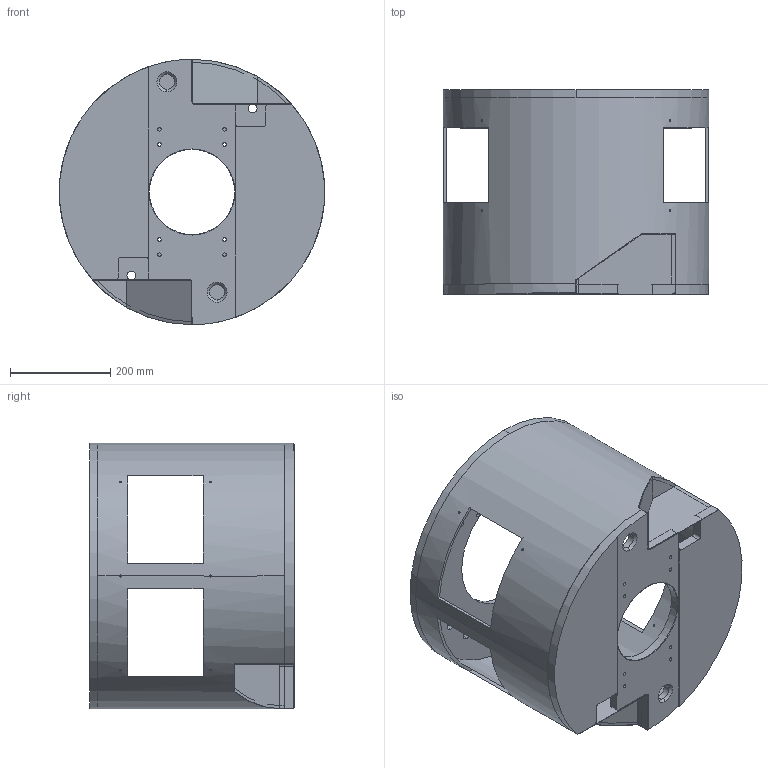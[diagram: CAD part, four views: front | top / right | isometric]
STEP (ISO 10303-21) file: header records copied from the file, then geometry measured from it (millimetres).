
FILE_DESCRIPTION (( 'STEP AP203' ), '1' );
FILE_NAME ('YWSD-2026-03-01-01-01 打磨头回转筒组焊件.STEP', '2026-07-24T07:30:15', ( 'Windows 用户' ), ( '' ), 'SwSTEP 2.0', 'SolidWorks 2024', '' );
FILE_SCHEMA (( 'CONFIG_CONTROL_DESIGN' ));
Length unit declared in the file: millimetre
Products named in the file (5): YWSD-2026-03-01-01-01=003 旋转中间管; YWSD-2026-03-01-01-01=001 旋转上板; YWSD-2026-03-01-01-01=004 盖板; YWSD-2026-03-01-01-01=002 旋转下板; YWSD-2026-03-01-01-01 打磨头回转筒组焊件
Assembly tree (5 placements, depth 2):
  YWSD-2026-03-01-01-01 打磨头回转筒组焊件
    YWSD-2026-03-01-01-01=001 旋转上板
    YWSD-2026-03-01-01-01=002 旋转下板
    YWSD-2026-03-01-01-01=003 旋转中间管
    YWSD-2026-03-01-01-01=004 盖板  x2
Bounding box: 530 x 408 x 530 mm (x, y, z)
Volume: 8100121.6 mm3; surface area: 1860004.8 mm2
Topology: 5 solids, 5 shells, 198 faces, 586 edges, 390 vertices
Faces by surface type: cylinder 122, plane 66, cone 6, torus 4
Entity records: 8387 total; most frequent: CARTESIAN_POINT 2597, ORIENTED_EDGE 1100, DIRECTION 1090, EDGE_CURVE 550, AXIS2_PLACEMENT_3D 423, VERTEX_POINT 366, EDGE_LOOP 282, VECTOR 244
